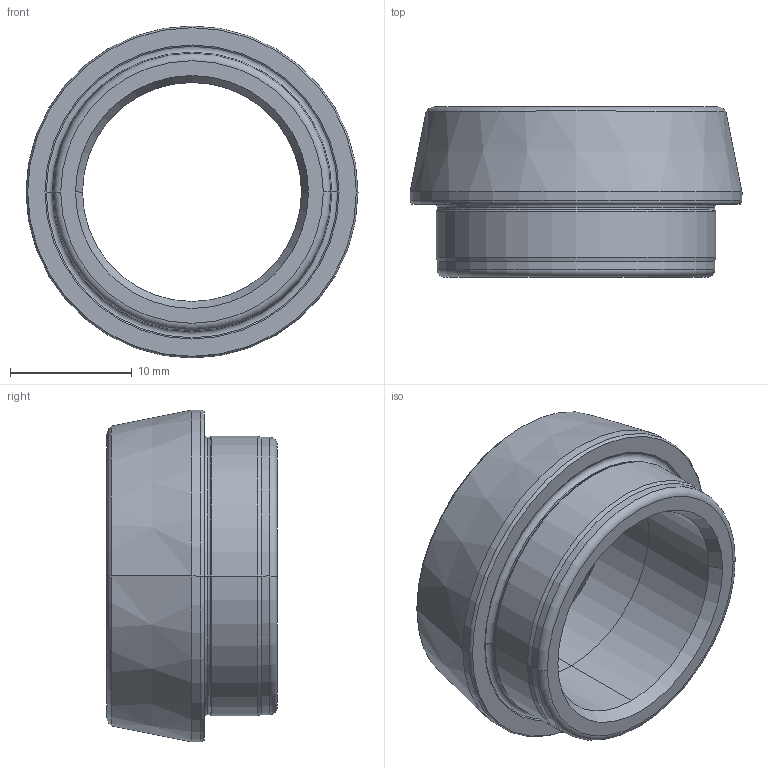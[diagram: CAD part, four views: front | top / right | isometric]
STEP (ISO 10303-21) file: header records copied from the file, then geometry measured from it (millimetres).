
FILE_DESCRIPTION (( 'STEP AP203' ), '1' );
FILE_NAME ('VXF0160-PD.STEP', '2014-11-25T05:03:39', ( '0393' ), ( 'Hewlett-Packard Company' ), 'SwSTEP 2.0', 'SolidWorks 2013', '' );
FILE_SCHEMA (( 'CONFIG_CONTROL_DESIGN' ));
Length unit declared in the file: millimetre
Products named in the file (1): VXF0160-PD
Bounding box: 27.3 x 14 x 27.3 mm (x, y, z)
Volume: 3121.3 mm3; surface area: 2336.4 mm2
Topology: 1 solids, 1 shells, 35 faces, 72 edges, 40 vertices
Faces by surface type: cone 12, torus 10, cylinder 10, plane 3
Entity records: 1005 total; most frequent: DIRECTION 194, CARTESIAN_POINT 148, ORIENTED_EDGE 144, AXIS2_PLACEMENT_3D 86, EDGE_CURVE 72, CIRCLE 50, VERTEX_POINT 40, EDGE_LOOP 38
